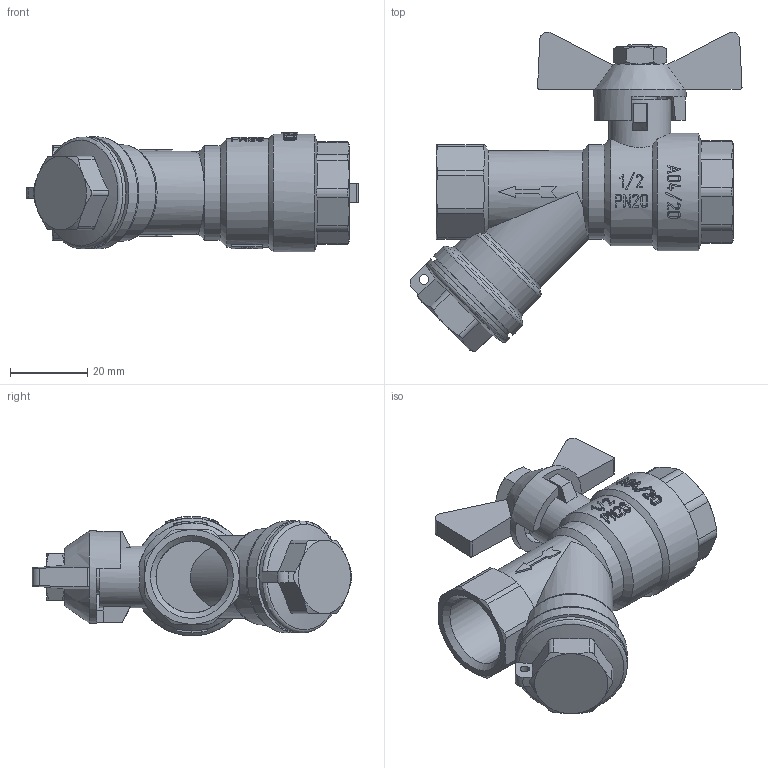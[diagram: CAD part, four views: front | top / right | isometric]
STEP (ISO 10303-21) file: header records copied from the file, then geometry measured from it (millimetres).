
FILE_DESCRIPTION(('STEP AP203'), '1');
FILE_NAME('VT.293.N.04', '', ('UNSPECIFIED'), ('UNSPECIFIED'), 'C3D Converter', 'C3D Toolkit', '');
FILE_SCHEMA(('CONFIG_CONTROL_DESIGN'));
Length unit declared in the file: millimetre
Products named in the file (1): ВР.491812.027.000 СБ
Bounding box: 85.97 x 82.79 x 31 mm (x, y, z)
Volume: 53147.2 mm3; surface area: 16646.3 mm2
Topology: 1 solids, 3 shells, 484 faces, 1292 edges, 846 vertices
Faces by surface type: plane 194, extrusion 151, cylinder 79, cone 54, torus 6
Full cylindrical faces by diameter (mm): 2.5 x1, 9 x1, 16 x1, 18.632 x2, 24 x1, 24.5 x1, 25 x1, 27 x1, 29 x2, 30.5 x1
Entity records: 23940 total; most frequent: CARTESIAN_POINT 13001, ORIENTED_EDGE 2534, DIRECTION 1708, EDGE_CURVE 1267, VERTEX_POINT 845, B_SPLINE_CURVE_WITH_KNOTS 644, VECTOR 618, AXIS2_PLACEMENT_3D 545
